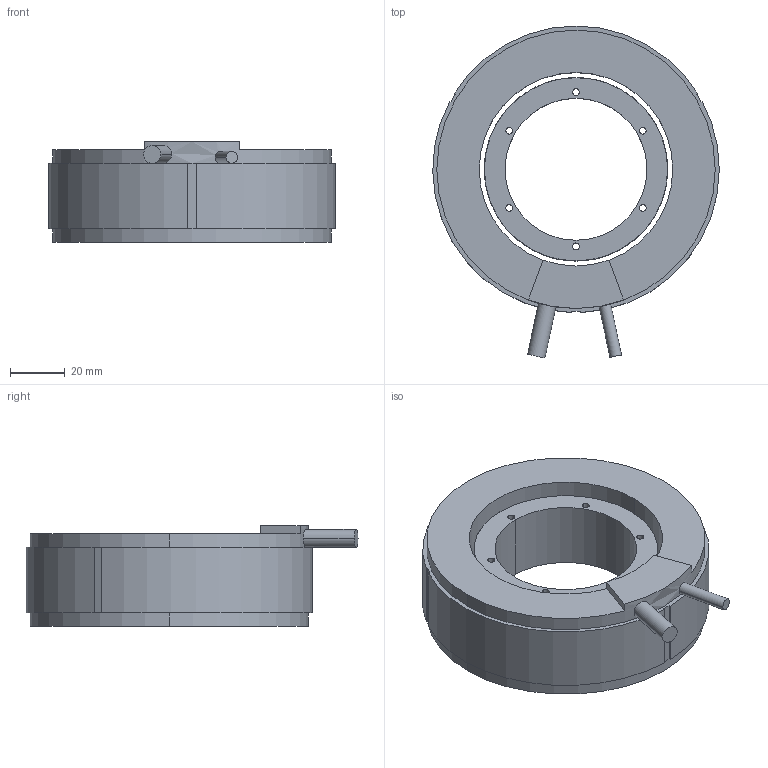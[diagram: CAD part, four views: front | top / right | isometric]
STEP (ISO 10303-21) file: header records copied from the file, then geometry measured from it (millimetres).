
FILE_DESCRIPTION (( 'STEP AP203' ), '1' );
FILE_NAME ('TMX105-34 3D.STEP', '2022-11-23T02:00:59', ( '' ), ( '' ), 'SwSTEP 2.0', 'SolidWorks 2021', '' );
FILE_SCHEMA (( 'CONFIG_CONTROL_DESIGN' ));
Length unit declared in the file: millimetre
Products named in the file (3): TM105-34 3D; TMX105-34 3D; TMX105-34 KIT 3D
Assembly tree (2 placements, depth 2):
  TMX105-34 3D
    TM105-34 3D
    TMX105-34 KIT 3D
Bounding box: 104.99 x 121.65 x 37 mm (x, y, z)
Volume: 191638.9 mm3; surface area: 42244.6 mm2
Topology: 2 solids, 2 shells, 190 faces, 451 edges, 286 vertices
Faces by surface type: plane 140, cylinder 50
Entity records: 5974 total; most frequent: DIRECTION 1057, CARTESIAN_POINT 1054, ORIENTED_EDGE 902, EDGE_CURVE 451, AXIS2_PLACEMENT_3D 415, VERTEX_POINT 286, EDGE_LOOP 227, LINE 227
